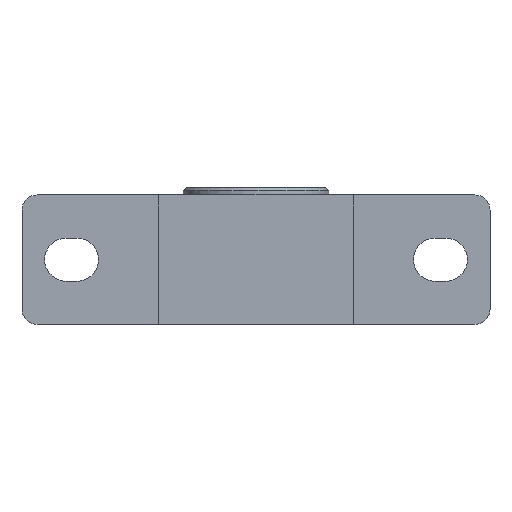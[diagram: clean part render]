
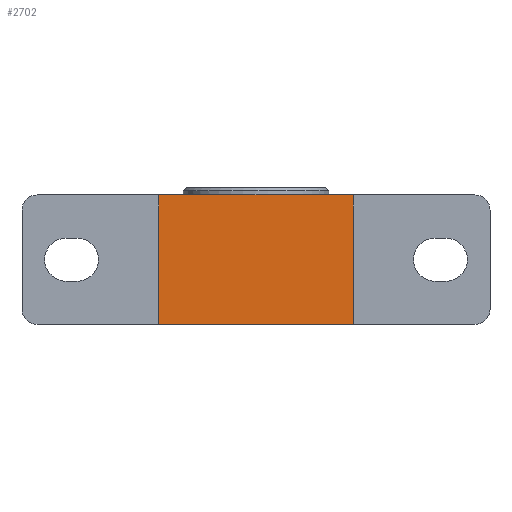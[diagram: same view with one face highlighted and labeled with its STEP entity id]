
A CAD part, front view. The second image highlights one B-rep face of the part: STEP entity #2702.
In plain terms, the highlighted planar face has unit normal (0, -1, 0).
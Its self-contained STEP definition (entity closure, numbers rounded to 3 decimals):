
#192=PLANE('',#3104);
#290=LINE('',#5004,#392);
#301=LINE('',#5034,#403);
#332=LINE('',#5204,#434);
#333=LINE('',#5206,#435);
#392=VECTOR('',#3528,10.);
#403=VECTOR('',#3553,10.);
#434=VECTOR('',#3726,10.);
#435=VECTOR('',#3729,10.);
#572=FACE_OUTER_BOUND('',#722,.T.);
#722=EDGE_LOOP('',(#2134,#2135,#2136,#2137));
#1160=VERTEX_POINT('',#5001);
#1161=VERTEX_POINT('',#5003);
#1172=VERTEX_POINT('',#5031);
#1173=VERTEX_POINT('',#5033);
#1473=EDGE_CURVE('',#1160,#1161,#290,.T.);
#1488=EDGE_CURVE('',#1172,#1173,#301,.T.);
#1563=EDGE_CURVE('',#1173,#1160,#332,.T.);
#1564=EDGE_CURVE('',#1172,#1161,#333,.T.);
#2134=ORIENTED_EDGE('',*,*,#1563,.F.);
#2135=ORIENTED_EDGE('',*,*,#1488,.F.);
#2136=ORIENTED_EDGE('',*,*,#1564,.T.);
#2137=ORIENTED_EDGE('',*,*,#1473,.F.);
#2702=ADVANCED_FACE('',(#572),#192,.T.);
#3104=AXIS2_PLACEMENT_3D('',#5205,#3727,#3728);
#3528=DIRECTION('',(1.,0.,0.));
#3553=DIRECTION('',(-1.,0.,0.));
#3726=DIRECTION('',(0.,0.,1.));
#3727=DIRECTION('center_axis',(0.,-1.,0.));
#3728=DIRECTION('ref_axis',(-1.,0.,0.));
#3729=DIRECTION('',(0.,0.,1.));
#5001=CARTESIAN_POINT('',(-45.,2.,30.));
#5003=CARTESIAN_POINT('',(45.,2.,30.));
#5004=CARTESIAN_POINT('',(-45.,2.,30.));
#5031=CARTESIAN_POINT('',(45.,2.,-30.));
#5033=CARTESIAN_POINT('',(-45.,2.,-30.));
#5034=CARTESIAN_POINT('',(-45.,2.,-30.));
#5204=CARTESIAN_POINT('',(-45.,2.,0.));
#5205=CARTESIAN_POINT('Origin',(45.,2.,0.));
#5206=CARTESIAN_POINT('',(45.,2.,0.));
